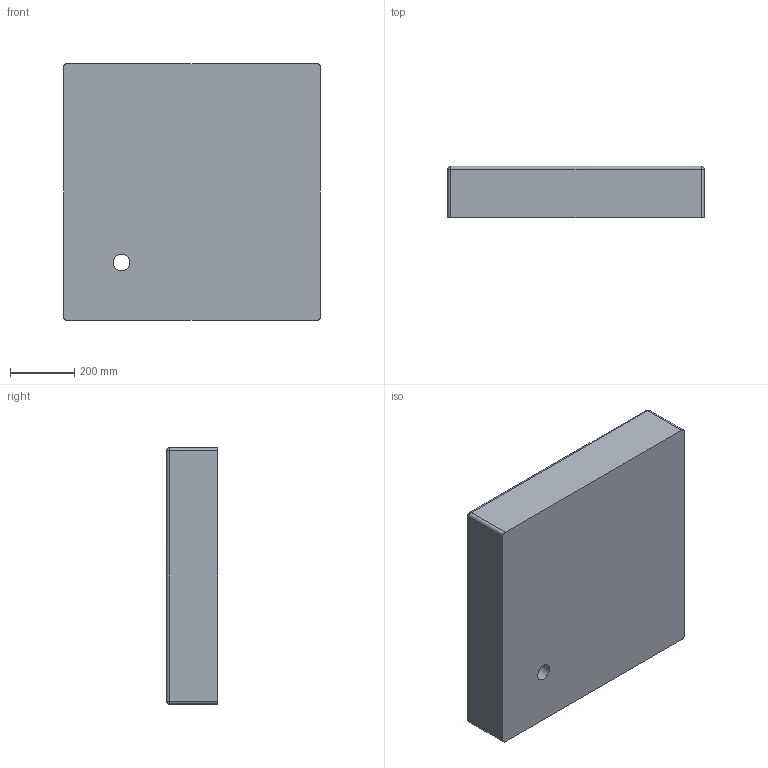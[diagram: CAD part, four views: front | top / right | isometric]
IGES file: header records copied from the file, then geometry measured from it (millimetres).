
Global section: file name: 5902539822533_igs; native system: Autodesk Inventor 2020; preprocessor: unknown; date: 20200727.153344; units: millimetre
Bounding box: 800 x 160 x 800 mm (x, y, z)
Surface area: 1842736.8 mm2 (no closed solid volume)
Topology: 0 solids, 0 shells, 47 faces, 256 edges, 277 vertices
Faces by surface type: revolution 36, bspline 11
